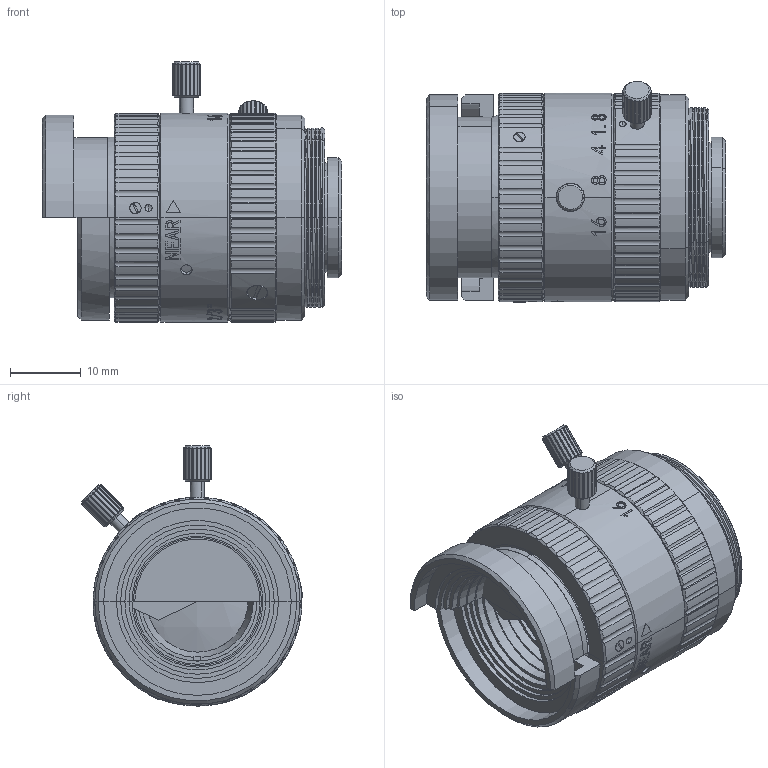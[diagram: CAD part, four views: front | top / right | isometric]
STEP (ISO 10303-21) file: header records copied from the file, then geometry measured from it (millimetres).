
FILE_DESCRIPTION (( 'STEP AP203' ), '1' );
FILE_NAME ('FAU1618MC.HR-H¶Ô°ë.STEP', '2025-07-05T07:31:27', ( '' ), ( '' ), 'SwSTEP 2.0', 'SolidWorks 2019', '' );
FILE_SCHEMA (( 'CONFIG_CONTROL_DESIGN' ));
Length unit declared in the file: millimetre
Products named in the file (1): FAU1618MC.HR-H勤圉
Bounding box: 42.27 x 31.22 x 36.75 mm (x, y, z)
Volume: 14987.1 mm3; surface area: 8007.2 mm2
Topology: 2 solids, 5 shells, 956 faces, 2675 edges, 1775 vertices
Faces by surface type: cylinder 384, plane 362, bspline 125, cone 79, sphere 6
Entity records: 48872 total; most frequent: CARTESIAN_POINT 26078, ORIENTED_EDGE 5340, DIRECTION 3941, EDGE_CURVE 2670, VERTEX_POINT 1775, AXIS2_PLACEMENT_3D 1467, EDGE_LOOP 1013, LINE 1007
